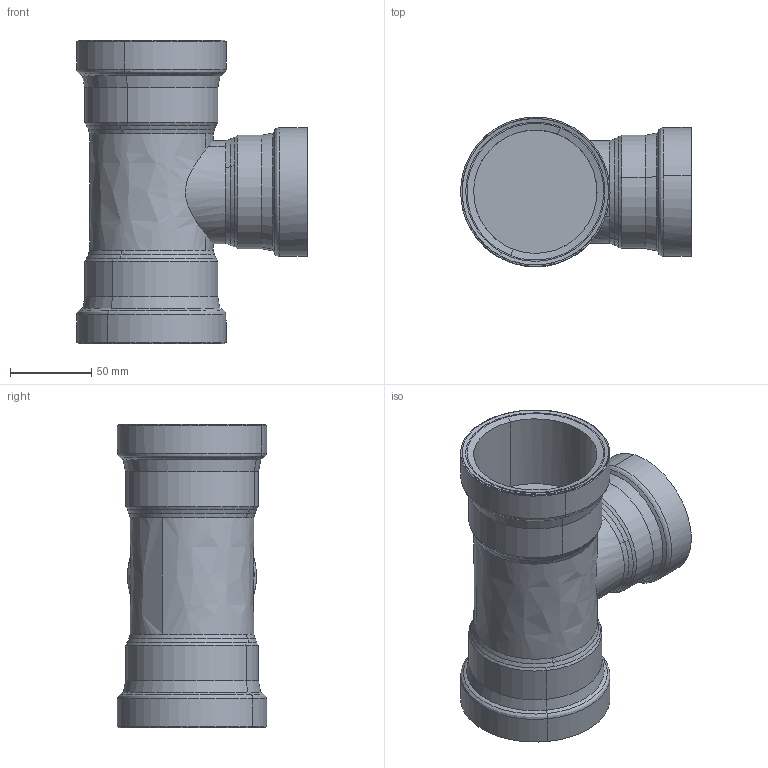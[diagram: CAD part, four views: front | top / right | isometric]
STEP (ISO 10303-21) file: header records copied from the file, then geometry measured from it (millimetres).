
FILE_DESCRIPTION(('STEP AP214'),'1');
FILE_NAME('pim0004540.stp','2015-04-30T15:02:45',('Cad-Pim'),('TransMagic, Inc.'),'TMR11sp0','TransMagic R11',' ');
FILE_SCHEMA(('AUTOMOTIVE_DESIGN'));
Length unit declared in the file: millimetre
Products named in the file (1): pim0004540
Bounding box: 142.1 x 92 x 186.71 mm (x, y, z)
Volume: 636573.3 mm3; surface area: 111270.4 mm2
Topology: 1 solids, 1 shells, 79 faces, 224 edges, 152 vertices
Faces by surface type: bspline 29, cone 28, cylinder 22
Entity records: 4152 total; most frequent: CARTESIAN_POINT 1836, ORIENTED_EDGE 448, DIRECTION 257, EDGE_CURVE 224, VERTEX_POINT 152, AXIS2_PLACEMENT_3D 100, EDGE_LOOP 84, STYLED_ITEM 80
